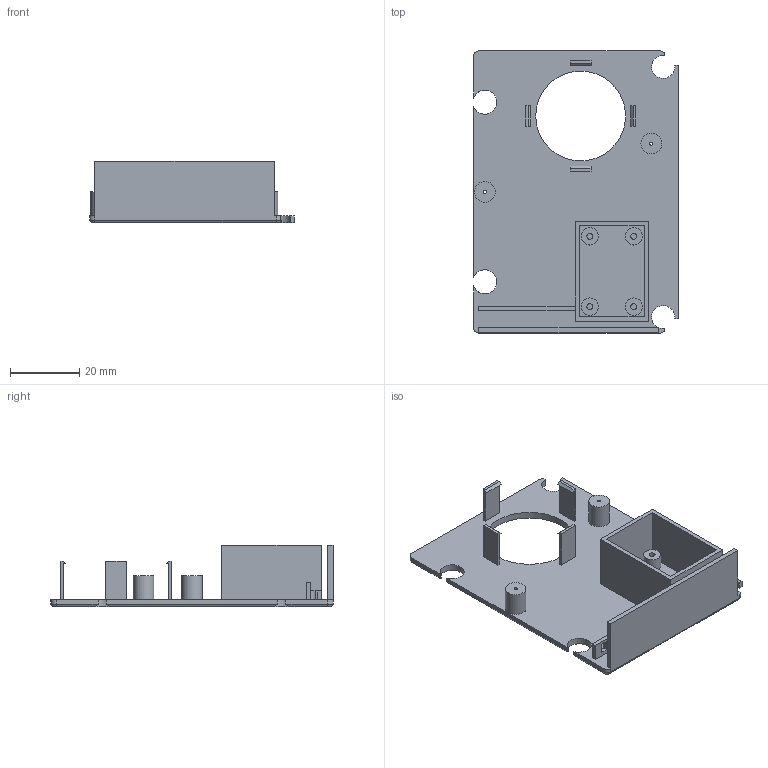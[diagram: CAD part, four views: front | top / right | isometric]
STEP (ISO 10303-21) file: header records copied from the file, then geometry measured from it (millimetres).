
FILE_DESCRIPTION(('Open CASCADE Model'),'2;1');
FILE_NAME('Open CASCADE Shape Model','2026-08-29T07:31:45',('Author'),( 'Open CASCADE'),'Open CASCADE STEP processor 7.9','build123d', 'Unknown');
FILE_SCHEMA(('AUTOMOTIVE_DESIGN { 1 0 10303 214 1 1 1 1 }'));
Length unit declared in the file: millimetre
Products named in the file (1): COMPOUND
Bounding box: 59.31 x 81.62 x 17.83 mm (x, y, z)
Volume: 12252.1 mm3; surface area: 15500.3 mm2
Topology: 1 solids, 1 shells, 121 faces, 304 edges, 199 vertices
Faces by surface type: plane 94, cylinder 21, cone 6
Full cylindrical faces by diameter (mm): 1.7 x4, 2.5 x2, 5 x4, 6 x2, 26 x1
Entity records: 7521 total; most frequent: CARTESIAN_POINT 1533, DIRECTION 1041, LINE 640, VECTOR 640, ORIENTED_EDGE 608, PCURVE 608, DEFINITIONAL_REPRESENTATION 608, EDGE_CURVE 304
